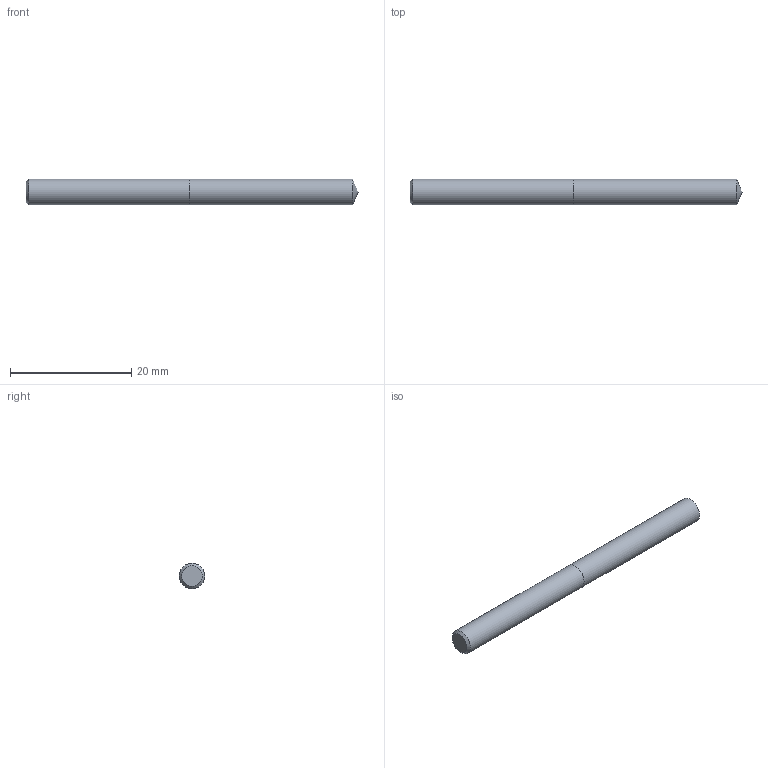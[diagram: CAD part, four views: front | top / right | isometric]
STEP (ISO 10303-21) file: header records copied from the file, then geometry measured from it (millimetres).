
FILE_DESCRIPTION (( 'STEP AP214' ), '1' );
FILE_NAME ('03-2361.STEP', '2022-06-03T06:43:53', ( 'USER' ), ( '' ), 'SwSTEP 2.0', 'SolidWorks 2018', '' );
FILE_SCHEMA (( 'AUTOMOTIVE_DESIGN' ));
Length unit declared in the file: inch
Products named in the file (1): 03-2361
Bounding box: 54.85 x 4.22 x 4.22 mm (x, y, z)
Volume: 756.6 mm3; surface area: 768.5 mm2
Topology: 2 solids, 2 shells, 7 faces, 11 edges, 7 vertices
Faces by surface type: plane 3, cylinder 2, cone 2
Full cylindrical faces by diameter (mm): 4.216 x2
Entity records: 214 total; most frequent: DIRECTION 26, CARTESIAN_POINT 18, AXIS2_PLACEMENT_3D 13, ORIENTED_EDGE 10, EDGE_LOOP 10, FACE_OUTER_BOUND 9, UNCERTAINTY_MEASURE_WITH_UNIT 7, LENGTH_MEASURE_WITH_UNIT 7
